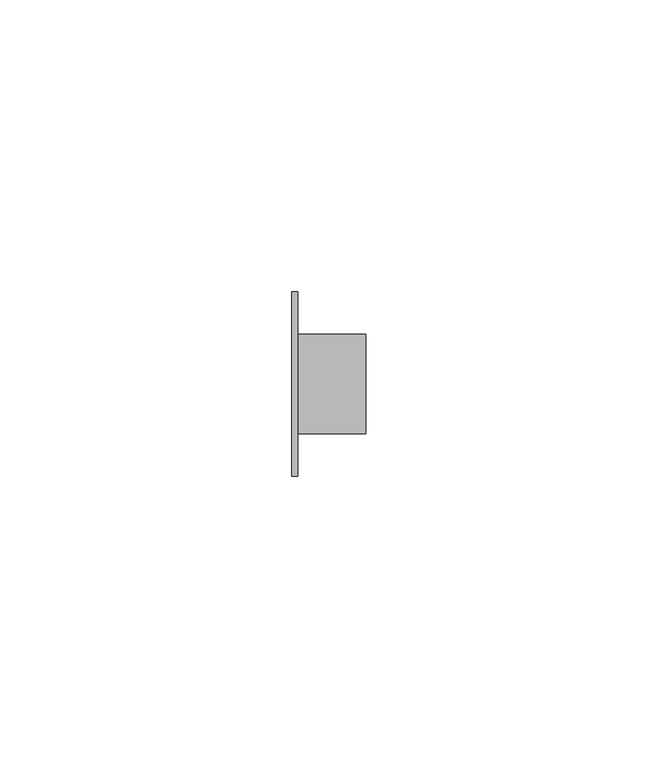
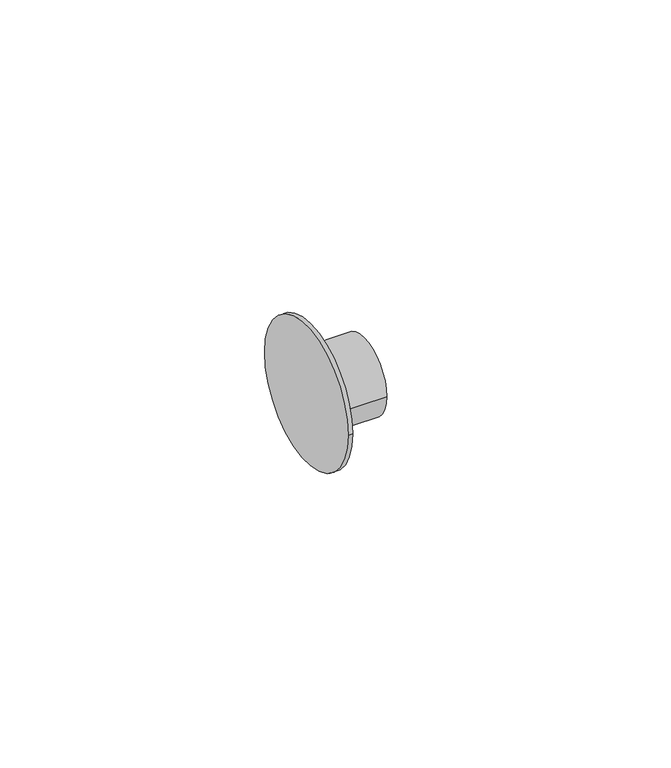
"""IFC4 building model written with IfcOpenShell, lengths in millimetres: pipe fitting geometry, Bucha de redução reta - Soldada - CU : Padrão."""

from ifc_helpers import new_model, si_unit, frame, origin, place, context, project, spatial, circle_curve, source, transform, mapped, element, save
from ifc_brep_helpers import plane_surface, cylinder_surface, advanced_brep


def pipe_fitting_442ec1e9(model_context):
    return source(origin(), model_context, "Body", "AdvancedBrep", [
        advanced_brep(
        [(0.0, -15.775, 0.0), (0.0, 15.775, 0.0), (1.0, -15.775, 0.0), (1.0, 15.775, 0.0), (1.0, -8.4937, 0.0), (1.0, 8.4937, 0.0), (12.6589, -8.4937, 0.0), (12.6589, 8.4937, 0.0)],
        [
            (0, 1, circle_curve(frame((0.0, 0.0, 0.0), z_axis=(-1.0, 0.0, 0.0), x_axis=(0.0, 1.0, 0.0)), 15.775)),
            (1, 0, circle_curve(frame((0.0, 0.0, 0.0), z_axis=(-1.0, 0.0, 0.0), x_axis=(0.0, 1.0, 0.0)), 15.775)),
            (2, 3, circle_curve(frame((1.0, 0.0, 0.0), z_axis=(1.0, 0.0, 0.0), x_axis=(0.0, 1.0, 0.0)), 15.775)),
            (3, 2, circle_curve(frame((1.0, 0.0, 0.0), z_axis=(1.0, 0.0, 0.0), x_axis=(0.0, 1.0, 0.0)), 15.775)),
            (4, 5, circle_curve(frame((1.0, 0.0, 0.0), z_axis=(-1.0, 0.0, 0.0), x_axis=(0.0, 1.0, 0.0)), 8.4937)),
            (5, 4, circle_curve(frame((1.0, 0.0, 0.0), z_axis=(-1.0, 0.0, 0.0), x_axis=(0.0, 1.0, 0.0)), 8.4937)),
            (0, 2),
            (3, 1),
            (6, 7, circle_curve(frame((12.6589, 0.0, 0.0), z_axis=(1.0, 0.0, 0.0), x_axis=(0.0, 1.0, 0.0)), 8.4937)),
            (7, 6, circle_curve(frame((12.6589, 0.0, 0.0), z_axis=(1.0, 0.0, 0.0), x_axis=(0.0, 1.0, 0.0)), 8.4937)),
            (7, 5),
            (4, 6),
        ],
        [
            plane_surface(frame((0.0, 0.0, 0.0), z_axis=(-1.0, 0.0, 0.0), x_axis=(0.0, 0.0, 1.0))),
            plane_surface(frame((1.0, 0.0, 0.0), z_axis=(1.0, 0.0, 0.0), x_axis=(0.0, 0.0, 1.0))),
            cylinder_surface(frame((0.0, 0.0, 0.0), z_axis=(-1.0, 0.0, 0.0), x_axis=(0.0, 1.0, 0.0)), 15.775),
            plane_surface(frame((12.6589, 0.0, 0.0), z_axis=(1.0, 0.0, 0.0), x_axis=(0.0, 0.0, 1.0))),
            cylinder_surface(frame((1.0, 0.0, 0.0), z_axis=(-1.0, 0.0, 0.0), x_axis=(0.0, 1.0, 0.0)), 8.4937),
        ],
        [
            (0, [[1, 2]]),
            (1, [[3, 4], [5, 6]]),
            (2, [[-1, 7, -4, 8]]),
            (2, [[-2, -8, -3, -7]]),
            (3, [[9, 10]]),
            (4, [[-10, 11, -5, 12]]),
            (4, [[-9, -12, -6, -11]]),
        ],
    ),
    ])


if __name__ == "__main__":
    model = new_model("IFC4")
    model_context = context("Model", 3, world=origin())
    ifc_project = project(units=[si_unit("LENGTHUNIT", "METRE", prefix="MILLI")], contexts=[model_context])
    site = spatial("IfcSite", under=ifc_project)
    building = spatial("IfcBuilding", under=site)
    placement = place(None, origin())
    pipe_fitting_shape = pipe_fitting_442ec1e9(model_context)
    element("IfcPipeFitting", 1, ObjectType="Bucha de redução reta - Soldada - CU : Padrão", at=placement, inside=building, context=model_context, shape_type="MappedRepresentation", body=[
        mapped(pipe_fitting_shape, transform((0.0, 0.0, 0.0), x_axis=(1.0, 0.0, 0.0), y_axis=(0.0, 1.0, 0.0), z_axis=(0.0, 0.0, 1.0))),
    ])
    save(model, "model.ifc")
